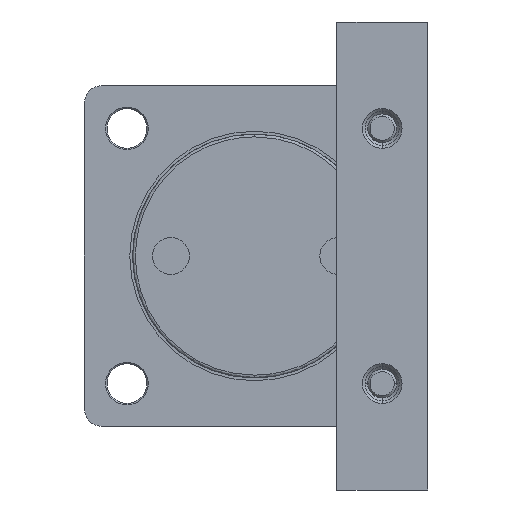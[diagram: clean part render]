
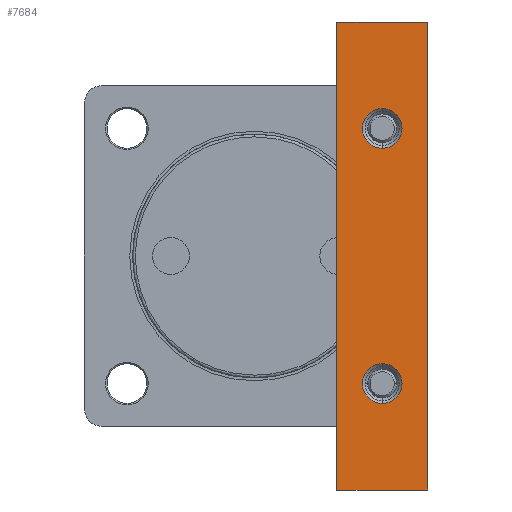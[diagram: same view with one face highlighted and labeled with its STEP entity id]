
A CAD part, left-side view. The second image highlights one B-rep face of the part: STEP entity #7684.
In plain terms, the highlighted planar face has unit normal (-1, 0, 0).
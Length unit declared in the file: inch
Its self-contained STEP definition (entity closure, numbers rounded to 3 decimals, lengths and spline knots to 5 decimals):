
#92 = AXIS2_PLACEMENT_3D ( 'NONE', #6852, #6887, #6902 ) ;
#225 = VERTEX_POINT ( 'NONE', #1431 ) ;
#625 = EDGE_CURVE ( 'NONE', #12242, #874, #9489, .T. ) ;
#874 = VERTEX_POINT ( 'NONE', #7721 ) ;
#888 = VECTOR ( 'NONE', #4730, 39.37008 ) ;
#903 = LINE ( 'NONE', #4960, #888 ) ;
#1431 = CARTESIAN_POINT ( 'NONE',  ( -2.1063, -1.77165, -1.49606 ) ) ;
#1665 = CARTESIAN_POINT ( 'NONE',  ( -2.1063, -2.40157, -3.24803 ) ) ;
#1709 = DIRECTION ( 'NONE',  ( 0., 0., -1. ) ) ;
#1714 = DIRECTION ( 'NONE',  ( 1., 0., 0. ) ) ;
#1739 = CARTESIAN_POINT ( 'NONE',  ( -2.1063, -2.40157, 3.24803 ) ) ;
#1777 = PLANE ( 'NONE',  #6821 ) ;
#1990 = ORIENTED_EDGE ( 'NONE', *, *, #9026, .F. ) ;
#2146 = VECTOR ( 'NONE', #3307, 39.37008 ) ;
#2277 = ORIENTED_EDGE ( 'NONE', *, *, #5055, .T. ) ;
#2427 = LINE ( 'NONE', #3550, #2146 ) ;
#2479 = VERTEX_POINT ( 'NONE', #10153 ) ;
#2993 = ORIENTED_EDGE ( 'NONE', *, *, #11333, .F. ) ;
#3029 = DIRECTION ( 'NONE',  ( 0., 0., 1. ) ) ;
#3044 = DIRECTION ( 'NONE',  ( -1., 0., 0. ) ) ;
#3056 = CARTESIAN_POINT ( 'NONE',  ( -2.1063, -1.77165, -1.77165 ) ) ;
#3307 = DIRECTION ( 'NONE',  ( 0., 0., -1. ) ) ;
#3314 = EDGE_CURVE ( 'NONE', #13455, #5272, #8547, .T. ) ;
#3339 = DIRECTION ( 'NONE',  ( 0., 0., 1. ) ) ;
#3362 = CARTESIAN_POINT ( 'NONE',  ( -2.1063, -2.40157, 3.24803 ) ) ;
#3550 = CARTESIAN_POINT ( 'NONE',  ( -2.1063, -1.14173, 3.24803 ) ) ;
#3596 = EDGE_LOOP ( 'NONE', ( #1990, #11706 ) ) ;
#3866 = ORIENTED_EDGE ( 'NONE', *, *, #3314, .T. ) ;
#4498 = CARTESIAN_POINT ( 'NONE',  ( -2.1063, -1.14173, -3.24803 ) ) ;
#4607 = ORIENTED_EDGE ( 'NONE', *, *, #9417, .T. ) ;
#4730 = DIRECTION ( 'NONE',  ( 0., 1., 0. ) ) ;
#4777 = DIRECTION ( 'NONE',  ( 0., 0., 1. ) ) ;
#4793 = DIRECTION ( 'NONE',  ( -1., 0., 0. ) ) ;
#4799 = CARTESIAN_POINT ( 'NONE',  ( -2.1063, -1.77165, -1.77165 ) ) ;
#4960 = CARTESIAN_POINT ( 'NONE',  ( -2.1063, -1.14173, 3.24803 ) ) ;
#5055 = EDGE_CURVE ( 'NONE', #12255, #2479, #903, .T. ) ;
#5272 = VERTEX_POINT ( 'NONE', #1665 ) ;
#5634 = CIRCLE ( 'NONE', #8513, 0.27559 ) ;
#5938 = EDGE_CURVE ( 'NONE', #2479, #13455, #2427, .T. ) ;
#5978 = FACE_OUTER_BOUND ( 'NONE', #10056, .T. ) ;
#6052 = FACE_BOUND ( 'NONE', #7432, .T. ) ;
#6123 = FACE_BOUND ( 'NONE', #3596, .T. ) ;
#6268 = DIRECTION ( 'NONE',  ( 0., -1., 0. ) ) ;
#6397 = CARTESIAN_POINT ( 'NONE',  ( -2.1063, -1.14173, -3.24803 ) ) ;
#6804 = CARTESIAN_POINT ( 'NONE',  ( -2.1063, -1.77165, -2.04724 ) ) ;
#6821 = AXIS2_PLACEMENT_3D ( 'NONE', #1739, #1714, #1709 ) ;
#6852 = CARTESIAN_POINT ( 'NONE',  ( -2.1063, -1.77165, 1.77165 ) ) ;
#6887 = DIRECTION ( 'NONE',  ( -1., 0., 0. ) ) ;
#6902 = DIRECTION ( 'NONE',  ( 0., 0., 1. ) ) ;
#6915 = DIRECTION ( 'NONE',  ( 0., 0., 1. ) ) ;
#6932 = DIRECTION ( 'NONE',  ( -1., 0., 0. ) ) ;
#6934 = CARTESIAN_POINT ( 'NONE',  ( -2.1063, -1.77165, 1.77165 ) ) ;
#7432 = EDGE_LOOP ( 'NONE', ( #2993, #8455 ) ) ;
#7684 = ADVANCED_FACE ( 'NONE', ( #5978, #6123, #6052 ), #1777, .F. ) ;
#7721 = CARTESIAN_POINT ( 'NONE',  ( -2.1063, -1.77165, 2.04724 ) ) ;
#8455 = ORIENTED_EDGE ( 'NONE', *, *, #9464, .F. ) ;
#8513 = AXIS2_PLACEMENT_3D ( 'NONE', #4799, #4793, #4777 ) ;
#8547 = LINE ( 'NONE', #6397, #9229 ) ;
#8774 = ORIENTED_EDGE ( 'NONE', *, *, #5938, .T. ) ;
#9026 = EDGE_CURVE ( 'NONE', #874, #12242, #9126, .T. ) ;
#9126 = CIRCLE ( 'NONE', #13107, 0.27559 ) ;
#9229 = VECTOR ( 'NONE', #6268, 39.37008 ) ;
#9417 = EDGE_CURVE ( 'NONE', #5272, #12255, #10201, .T. ) ;
#9464 = EDGE_CURVE ( 'NONE', #12896, #225, #10439, .T. ) ;
#9489 = CIRCLE ( 'NONE', #92, 0.27559 ) ;
#9821 = CARTESIAN_POINT ( 'NONE',  ( -2.1063, -1.77165, 1.49606 ) ) ;
#10056 = EDGE_LOOP ( 'NONE', ( #8774, #3866, #4607, #2277 ) ) ;
#10122 = CARTESIAN_POINT ( 'NONE',  ( -2.1063, -2.40157, 3.24803 ) ) ;
#10130 = VECTOR ( 'NONE', #3339, 39.37008 ) ;
#10153 = CARTESIAN_POINT ( 'NONE',  ( -2.1063, -1.14173, 3.24803 ) ) ;
#10201 = LINE ( 'NONE', #3362, #10130 ) ;
#10439 = CIRCLE ( 'NONE', #12060, 0.27559 ) ;
#11333 = EDGE_CURVE ( 'NONE', #225, #12896, #5634, .T. ) ;
#11706 = ORIENTED_EDGE ( 'NONE', *, *, #625, .F. ) ;
#12060 = AXIS2_PLACEMENT_3D ( 'NONE', #3056, #3044, #3029 ) ;
#12242 = VERTEX_POINT ( 'NONE', #9821 ) ;
#12255 = VERTEX_POINT ( 'NONE', #10122 ) ;
#12896 = VERTEX_POINT ( 'NONE', #6804 ) ;
#13107 = AXIS2_PLACEMENT_3D ( 'NONE', #6934, #6932, #6915 ) ;
#13455 = VERTEX_POINT ( 'NONE', #4498 ) ;
